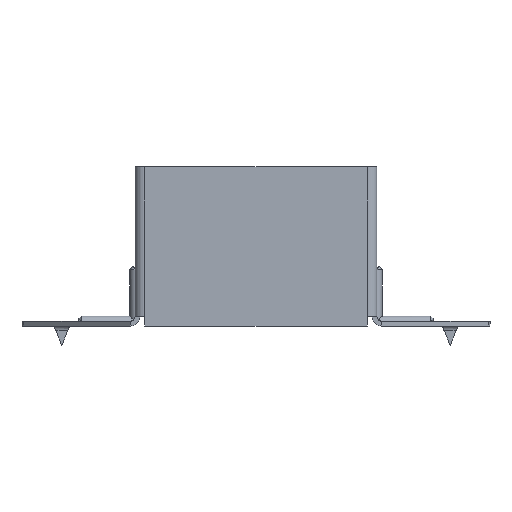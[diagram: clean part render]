
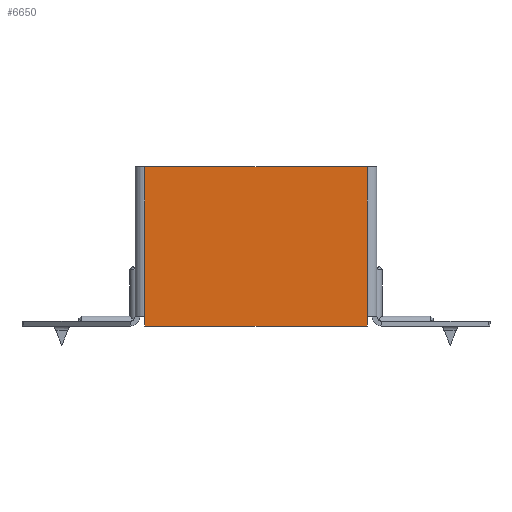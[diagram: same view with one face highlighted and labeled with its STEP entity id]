
A CAD part, front view. The second image highlights one B-rep face of the part: STEP entity #6650.
In plain terms, the highlighted planar face has unit normal (0, -1, 0).
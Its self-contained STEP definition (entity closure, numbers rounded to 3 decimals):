
#31 = VERTEX_POINT ( 'NONE', #2071 ) ;
#508 = ORIENTED_EDGE ( 'NONE', *, *, #606, .T. ) ;
#549 = EDGE_CURVE ( 'NONE', #10999, #8965, #8757, .T. ) ;
#606 = EDGE_CURVE ( 'NONE', #10999, #6755, #1943, .T. ) ;
#656 = CARTESIAN_POINT ( 'NONE',  ( -35., 0., -70. ) ) ;
#682 = ORIENTED_EDGE ( 'NONE', *, *, #2841, .T. ) ;
#872 = CARTESIAN_POINT ( 'NONE',  ( -35., 0., -67. ) ) ;
#1118 = CARTESIAN_POINT ( 'NONE',  ( -35., 0., 0. ) ) ;
#1503 = EDGE_LOOP ( 'NONE', ( #4822, #3537, #682, #1677, #508, #10370 ) ) ;
#1677 = ORIENTED_EDGE ( 'NONE', *, *, #549, .F. ) ;
#1776 = DIRECTION ( 'NONE',  ( 0., 1., 0. ) ) ;
#1806 = DIRECTION ( 'NONE',  ( -1., 0., 0. ) ) ;
#1943 = LINE ( 'NONE', #4542, #5754 ) ;
#2071 = CARTESIAN_POINT ( 'NONE',  ( -35., 0., -20. ) ) ;
#2258 = VECTOR ( 'NONE', #1806, 1000. ) ;
#2381 = DIRECTION ( 'NONE',  ( 0., 0., -1. ) ) ;
#2613 = VERTEX_POINT ( 'NONE', #872 ) ;
#2841 = EDGE_CURVE ( 'NONE', #2613, #8965, #3154, .T. ) ;
#3147 = CARTESIAN_POINT ( 'NONE',  ( 35., 0., -70. ) ) ;
#3154 = LINE ( 'NONE', #5361, #10464 ) ;
#3289 = LINE ( 'NONE', #7160, #9330 ) ;
#3537 = ORIENTED_EDGE ( 'NONE', *, *, #6290, .T. ) ;
#4105 = CARTESIAN_POINT ( 'NONE',  ( 35., 0., -20. ) ) ;
#4130 = CARTESIAN_POINT ( 'NONE',  ( -36.5, 0., -70. ) ) ;
#4542 = CARTESIAN_POINT ( 'NONE',  ( 35., 0., -70. ) ) ;
#4822 = ORIENTED_EDGE ( 'NONE', *, *, #13148, .T. ) ;
#5020 = DIRECTION ( 'NONE',  ( 0., 0., -1. ) ) ;
#5361 = CARTESIAN_POINT ( 'NONE',  ( -35., 0., 0. ) ) ;
#5551 = FACE_OUTER_BOUND ( 'NONE', #1503, .T. ) ;
#5645 = DIRECTION ( 'NONE',  ( 0., 0., 1. ) ) ;
#5754 = VECTOR ( 'NONE', #11702, 1000. ) ;
#6290 = EDGE_CURVE ( 'NONE', #31, #2613, #12075, .T. ) ;
#6650 = ADVANCED_FACE ( 'NONE', ( #5551 ), #7779, .F. ) ;
#6755 = VERTEX_POINT ( 'NONE', #8264 ) ;
#6964 = CARTESIAN_POINT ( 'NONE',  ( 0., 0., -20. ) ) ;
#7160 = CARTESIAN_POINT ( 'NONE',  ( 35., 0., -70. ) ) ;
#7779 = PLANE ( 'NONE',  #9311 ) ;
#7866 = CARTESIAN_POINT ( 'NONE',  ( 0., 0., 0. ) ) ;
#8264 = CARTESIAN_POINT ( 'NONE',  ( 35., 0., -67. ) ) ;
#8692 = EDGE_CURVE ( 'NONE', #6755, #12518, #3289, .T. ) ;
#8757 = LINE ( 'NONE', #4130, #12109 ) ;
#8965 = VERTEX_POINT ( 'NONE', #656 ) ;
#9311 = AXIS2_PLACEMENT_3D ( 'NONE', #7866, #1776, #5645 ) ;
#9330 = VECTOR ( 'NONE', #13113, 1000. ) ;
#10175 = DIRECTION ( 'NONE',  ( -1., 0., 0. ) ) ;
#10370 = ORIENTED_EDGE ( 'NONE', *, *, #8692, .T. ) ;
#10464 = VECTOR ( 'NONE', #2381, 1000. ) ;
#10999 = VERTEX_POINT ( 'NONE', #3147 ) ;
#11702 = DIRECTION ( 'NONE',  ( 0., 0., 1. ) ) ;
#11953 = LINE ( 'NONE', #6964, #2258 ) ;
#12075 = LINE ( 'NONE', #1118, #12690 ) ;
#12109 = VECTOR ( 'NONE', #10175, 1000. ) ;
#12518 = VERTEX_POINT ( 'NONE', #4105 ) ;
#12690 = VECTOR ( 'NONE', #5020, 1000. ) ;
#13113 = DIRECTION ( 'NONE',  ( 0., 0., 1. ) ) ;
#13148 = EDGE_CURVE ( 'NONE', #12518, #31, #11953, .T. ) ;
